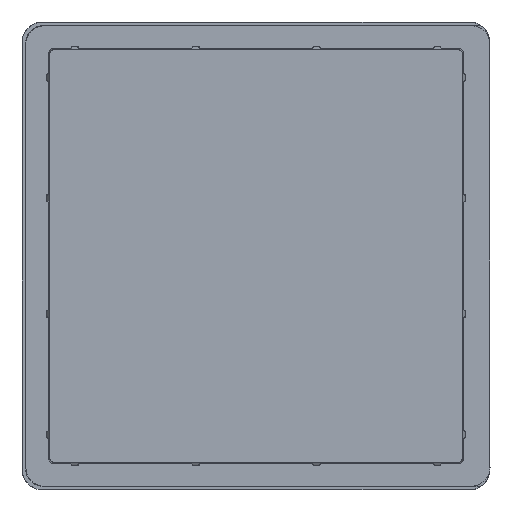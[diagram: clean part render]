
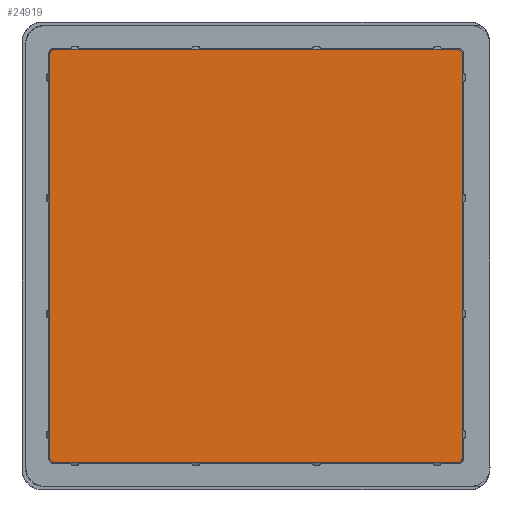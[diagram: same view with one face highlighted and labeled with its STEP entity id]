
A CAD part, top view. The second image highlights one B-rep face of the part: STEP entity #24919.
In plain terms, the highlighted planar face has unit normal (0, 0, 1) as drawn and (0, 0, -1) by its records, which use the part's own axes.
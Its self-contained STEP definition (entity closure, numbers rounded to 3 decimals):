
#556 = FACE_OUTER_BOUND ( 'NONE', #11743, .T. ) ;
#882 = CARTESIAN_POINT ( 'NONE',  ( -142.94, 141.817, -29.458 ) ) ;
#887 = ORIENTED_EDGE ( 'NONE', *, *, #10918, .T. ) ;
#1142 = CARTESIAN_POINT ( 'NONE',  ( -143.319, 140.7, -29.458 ) ) ;
#1347 = CARTESIAN_POINT ( 'NONE',  ( -143.241, -141.092, -29.458 ) ) ;
#1594 = CARTESIAN_POINT ( 'NONE',  ( -143.319, -140.7, -29.458 ) ) ;
#1705 = DIRECTION ( 'NONE',  ( -1., 0., 0. ) ) ;
#2056 = CARTESIAN_POINT ( 'NONE',  ( 141.08, 143.228, -29.458 ) ) ;
#2095 = CARTESIAN_POINT ( 'NONE',  ( -143.319, -140.307, -29.458 ) ) ;
#2412 = CARTESIAN_POINT ( 'NONE',  ( 143.294, -140.307, -29.458 ) ) ;
#2804 = CARTESIAN_POINT ( 'NONE',  ( 142.693, -142.15, -29.458 ) ) ;
#2892 = VERTEX_POINT ( 'NONE', #13618 ) ;
#3256 = DIRECTION ( 'NONE',  ( 0., -1., 0. ) ) ;
#3306 = CARTESIAN_POINT ( 'NONE',  ( -140.32, -143.306, -29.458 ) ) ;
#3439 = CARTESIAN_POINT ( 'NONE',  ( -141.83, -142.928, -29.458 ) ) ;
#3788 = CARTESIAN_POINT ( 'NONE',  ( -143.319, -143.306, -29.458 ) ) ;
#3884 = CARTESIAN_POINT ( 'NONE',  ( 143.294, 140.307, -29.458 ) ) ;
#4431 = CARTESIAN_POINT ( 'NONE',  ( 140.295, 143.306, -29.458 ) ) ;
#4682 = EDGE_CURVE ( 'NONE', #19440, #20906, #23723, .T. ) ;
#4746 = VECTOR ( 'NONE', #1705, 1000. ) ;
#4937 = CARTESIAN_POINT ( 'NONE',  ( -142.163, 142.705, -29.458 ) ) ;
#5775 = CARTESIAN_POINT ( 'NONE',  ( -140.712, -143.306, -29.458 ) ) ;
#6188 = VERTEX_POINT ( 'NONE', #11759 ) ;
#6416 = EDGE_CURVE ( 'NONE', #2892, #6188, #9813, .T. ) ;
#6641 = CARTESIAN_POINT ( 'NONE',  ( -140.712, 143.306, -29.458 ) ) ;
#6991 = EDGE_CURVE ( 'NONE', #6188, #19440, #11953, .T. ) ;
#7018 = AXIS2_PLACEMENT_3D ( 'NONE', #8814, #15006, #14750 ) ;
#7226 = DIRECTION ( 'NONE',  ( 0., 1., 0. ) ) ;
#7788 = LINE ( 'NONE', #11408, #16391 ) ;
#8814 = CARTESIAN_POINT ( 'NONE',  ( -143.319, 143.306, -29.458 ) ) ;
#8826 = CARTESIAN_POINT ( 'NONE',  ( 143.294, 140.307, -29.458 ) ) ;
#9362 = CARTESIAN_POINT ( 'NONE',  ( 141.805, -142.928, -29.458 ) ) ;
#9431 = VERTEX_POINT ( 'NONE', #4431 ) ;
#9801 = CARTESIAN_POINT ( 'NONE',  ( 142.915, 141.818, -29.458 ) ) ;
#9813 = B_SPLINE_CURVE_WITH_KNOTS ( 'NONE', 3,
 ( #2412, #10418, #12807, #24491, #2804, #20543, #9362, #11345, #15162, #11214 ),
 .UNSPECIFIED., .F., .F.,
 ( 4, 2, 2, 2, 4 ),
 ( 0., 1.665, 3.331, 4.996, 6.662 ),
 .UNSPECIFIED. ) ;
#10418 = CARTESIAN_POINT ( 'NONE',  ( 143.294, -140.7, -29.458 ) ) ;
#10427 = CARTESIAN_POINT ( 'NONE',  ( -143.319, 143.306, -29.458 ) ) ;
#10918 = EDGE_CURVE ( 'NONE', #9431, #17891, #25247, .T. ) ;
#11214 = CARTESIAN_POINT ( 'NONE',  ( 140.295, -143.306, -29.458 ) ) ;
#11345 = CARTESIAN_POINT ( 'NONE',  ( 141.08, -143.228, -29.458 ) ) ;
#11408 = CARTESIAN_POINT ( 'NONE',  ( 143.294, 143.306, -29.458 ) ) ;
#11463 = CARTESIAN_POINT ( 'NONE',  ( -142.163, -142.705, -29.458 ) ) ;
#11743 = EDGE_LOOP ( 'NONE', ( #887, #21788, #12673, #22446, #25599, #18588, #12805, #13934 ) ) ;
#11759 = CARTESIAN_POINT ( 'NONE',  ( 140.295, -143.306, -29.458 ) ) ;
#11845 = CARTESIAN_POINT ( 'NONE',  ( -141.105, -143.228, -29.458 ) ) ;
#11953 = LINE ( 'NONE', #3788, #4746 ) ;
#12008 = EDGE_CURVE ( 'NONE', #20906, #25160, #20785, .T. ) ;
#12584 = CARTESIAN_POINT ( 'NONE',  ( -141.105, 143.228, -29.458 ) ) ;
#12673 = ORIENTED_EDGE ( 'NONE', *, *, #6416, .T. ) ;
#12805 = ORIENTED_EDGE ( 'NONE', *, *, #16631, .T. ) ;
#12807 = CARTESIAN_POINT ( 'NONE',  ( 143.216, -141.092, -29.458 ) ) ;
#12976 = CARTESIAN_POINT ( 'NONE',  ( -140.32, 143.306, -29.458 ) ) ;
#13618 = CARTESIAN_POINT ( 'NONE',  ( 143.294, -140.307, -29.458 ) ) ;
#13635 = CARTESIAN_POINT ( 'NONE',  ( 141.805, 142.928, -29.458 ) ) ;
#13887 = CARTESIAN_POINT ( 'NONE',  ( 143.294, 140.7, -29.458 ) ) ;
#13934 = ORIENTED_EDGE ( 'NONE', *, *, #21950, .T. ) ;
#13951 = CARTESIAN_POINT ( 'NONE',  ( -140.32, -143.306, -29.458 ) ) ;
#14018 = CARTESIAN_POINT ( 'NONE',  ( 140.295, 143.306, -29.458 ) ) ;
#14301 = CARTESIAN_POINT ( 'NONE',  ( -142.718, -142.15, -29.458 ) ) ;
#14390 = DIRECTION ( 'NONE',  ( 1., 0., 0. ) ) ;
#14750 = DIRECTION ( 'NONE',  ( 1., 0., 0. ) ) ;
#14823 = CARTESIAN_POINT ( 'NONE',  ( -142.718, 142.15, -29.458 ) ) ;
#15006 = DIRECTION ( 'NONE',  ( 0., 0., -1. ) ) ;
#15094 = VECTOR ( 'NONE', #7226, 1000. ) ;
#15162 = CARTESIAN_POINT ( 'NONE',  ( 140.687, -143.306, -29.458 ) ) ;
#15726 = CARTESIAN_POINT ( 'NONE',  ( 140.687, 143.306, -29.458 ) ) ;
#16391 = VECTOR ( 'NONE', #3256, 1000. ) ;
#16631 = EDGE_CURVE ( 'NONE', #25160, #22918, #21163, .T. ) ;
#17036 = CARTESIAN_POINT ( 'NONE',  ( -143.241, 141.092, -29.458 ) ) ;
#17825 = CARTESIAN_POINT ( 'NONE',  ( 142.693, 142.15, -29.458 ) ) ;
#17891 = VERTEX_POINT ( 'NONE', #8826 ) ;
#18588 = ORIENTED_EDGE ( 'NONE', *, *, #12008, .T. ) ;
#18677 = CARTESIAN_POINT ( 'NONE',  ( -143.319, 143.306, -29.458 ) ) ;
#18880 = CARTESIAN_POINT ( 'NONE',  ( -143.319, 140.307, -29.458 ) ) ;
#19440 = VERTEX_POINT ( 'NONE', #13951 ) ;
#19726 = CARTESIAN_POINT ( 'NONE',  ( -143.319, -140.307, -29.458 ) ) ;
#19847 = CARTESIAN_POINT ( 'NONE',  ( -143.319, 140.307, -29.458 ) ) ;
#19860 = CARTESIAN_POINT ( 'NONE',  ( -142.94, -141.817, -29.458 ) ) ;
#19927 = CARTESIAN_POINT ( 'NONE',  ( 142.138, 142.705, -29.458 ) ) ;
#20045 = EDGE_CURVE ( 'NONE', #17891, #2892, #7788, .T. ) ;
#20418 = LINE ( 'NONE', #10427, #22496 ) ;
#20543 = CARTESIAN_POINT ( 'NONE',  ( 142.138, -142.705, -29.458 ) ) ;
#20785 = LINE ( 'NONE', #18677, #15094 ) ;
#20906 = VERTEX_POINT ( 'NONE', #2095 ) ;
#21163 = B_SPLINE_CURVE_WITH_KNOTS ( 'NONE', 3,
 ( #18880, #1142, #17036, #882, #14823, #4937, #24660, #12584, #6641, #12976 ),
 .UNSPECIFIED., .F., .F.,
 ( 4, 2, 2, 2, 4 ),
 ( 0., 1.665, 3.331, 4.996, 6.662 ),
 .UNSPECIFIED. ) ;
#21788 = ORIENTED_EDGE ( 'NONE', *, *, #20045, .T. ) ;
#21900 = CARTESIAN_POINT ( 'NONE',  ( 143.216, 141.092, -29.458 ) ) ;
#21950 = EDGE_CURVE ( 'NONE', #22918, #9431, #20418, .T. ) ;
#22446 = ORIENTED_EDGE ( 'NONE', *, *, #6991, .T. ) ;
#22496 = VECTOR ( 'NONE', #14390, 1000. ) ;
#22899 = PLANE ( 'NONE',  #7018 ) ;
#22918 = VERTEX_POINT ( 'NONE', #25935 ) ;
#23723 = B_SPLINE_CURVE_WITH_KNOTS ( 'NONE', 3,
 ( #3306, #5775, #11845, #3439, #11463, #14301, #19860, #1347, #1594, #19726 ),
 .UNSPECIFIED., .F., .F.,
 ( 4, 2, 2, 2, 4 ),
 ( 0., 1.665, 3.331, 4.996, 6.662 ),
 .UNSPECIFIED. ) ;
#24491 = CARTESIAN_POINT ( 'NONE',  ( 142.915, -141.818, -29.458 ) ) ;
#24660 = CARTESIAN_POINT ( 'NONE',  ( -141.83, 142.928, -29.458 ) ) ;
#24919 = ADVANCED_FACE ( 'NONE', ( #556 ), #22899, .T. ) ;
#25160 = VERTEX_POINT ( 'NONE', #19847 ) ;
#25247 = B_SPLINE_CURVE_WITH_KNOTS ( 'NONE', 3,
 ( #14018, #15726, #2056, #13635, #19927, #17825, #9801, #21900, #13887, #3884 ),
 .UNSPECIFIED., .F., .F.,
 ( 4, 2, 2, 2, 4 ),
 ( 0., 1.665, 3.331, 4.996, 6.662 ),
 .UNSPECIFIED. ) ;
#25599 = ORIENTED_EDGE ( 'NONE', *, *, #4682, .T. ) ;
#25935 = CARTESIAN_POINT ( 'NONE',  ( -140.32, 143.306, -29.458 ) ) ;
